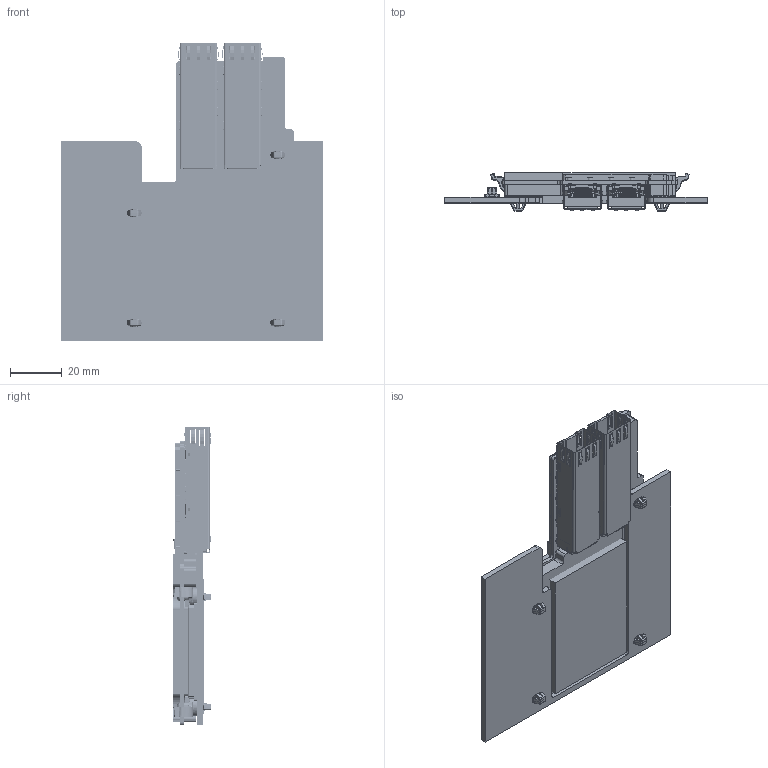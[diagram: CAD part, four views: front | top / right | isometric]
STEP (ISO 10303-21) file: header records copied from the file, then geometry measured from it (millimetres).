
FILE_DESCRIPTION((''),'2;1');
FILE_NAME('OCP-MZ-2_0-BD-ASSY_1X4SFP_8MM_ASM','2015-11-02T',('95030616'),(''),'PRO/ENGINEER BY PARAMETRIC TECHNOLOGY CORPORATION, 2013040','PRO/ENGINEER BY PARAMETRIC TECHNOLOGY CORPORATION, 2013040','');
FILE_SCHEMA(('AUTOMOTIVE_DESIGN { 1 0 10303 214 1 1 1 1 }'));
Products named in the file (20): OCP-2_0-BOARD_2; S61083-121X0XXX; F01-LED-EVERLIGHT; BTM-KEEPOUT-2MM; BTM-KEEPOUT-2_9MM; TOP-KEEPOUT-4_5MM; TOP-KEEPOUT-4_5MM-3; TOP-KEEPOUT-4MM; TOP-KEEPOUT-4MM-2; TOP-KEEPOUT-7_5MM; PORTION_MB_LEOPARD_E1_FILLED; FCI_61082_081402LF_LEOPARD_E1; CN120_GPN2_0-8_SMD_H_F-E1; 64POS-REC1; ASSY_PORTION_MB_LEOPARD_E1_ASM__ASM; F06-MEZZ-LATCH-RIGHT-5MM; F06-MEZZ-LATCH-LEFT-5MM; 1X1STANDASM_ASM; SFP28-20150313; OCP-MZ-2_0-BD-ASSY_1X4SFP_8MM_ASM
Assembly tree (26 placements, depth 3):
  OCP-MZ-2_0-BD-ASSY_1X4SFP_8MM_ASM
    OCP-2_0-BOARD_2
    S61083-121X0XXX
    F01-LED-EVERLIGHT  x4
    BTM-KEEPOUT-2MM
    BTM-KEEPOUT-2_9MM
    TOP-KEEPOUT-4_5MM
    TOP-KEEPOUT-4_5MM-3
    TOP-KEEPOUT-4MM
    TOP-KEEPOUT-4MM-2
    TOP-KEEPOUT-7_5MM
    ASSY_PORTION_MB_LEOPARD_E1_ASM__ASM
      PORTION_MB_LEOPARD_E1_FILLED
      FCI_61082_081402LF_LEOPARD_E1
      CN120_GPN2_0-8_SMD_H_F-E1
      64POS-REC1
    F06-MEZZ-LATCH-RIGHT-5MM  x3
    F06-MEZZ-LATCH-LEFT-5MM
    1X1STANDASM_ASM  x2
    SFP28-20150313  x2
Bounding box: 101.72 x 14.86 x 115.25 mm (x, y, z)
Volume: 72964 mm3; surface area: 70068.1 mm2
Topology: 25 solids, 51 shells, 11333 faces, 31970 edges, 20486 vertices
Faces by surface type: plane 8450, cylinder 2163, bspline 441, sphere 125, cone 122, torus 32
Entity records: 305759 total; most frequent: CARTESIAN_POINT 58540, ORIENTED_EDGE 45374, DIRECTION 39899, EDGE_CURVE 22687, VECTOR 19567, LINE 19567, VERTEX_POINT 14538, PRESENTATION_STYLE_ASSIGNMENT 11806
